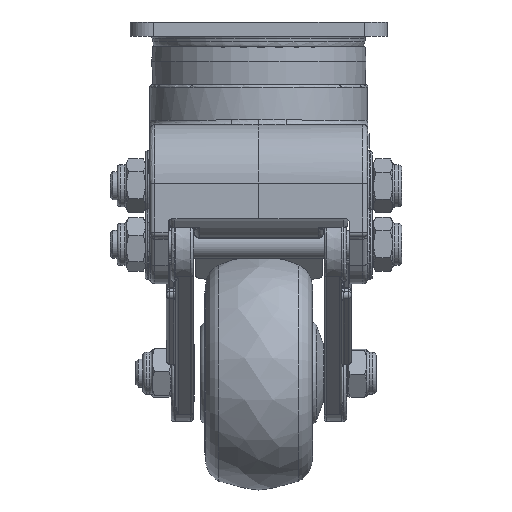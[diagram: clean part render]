
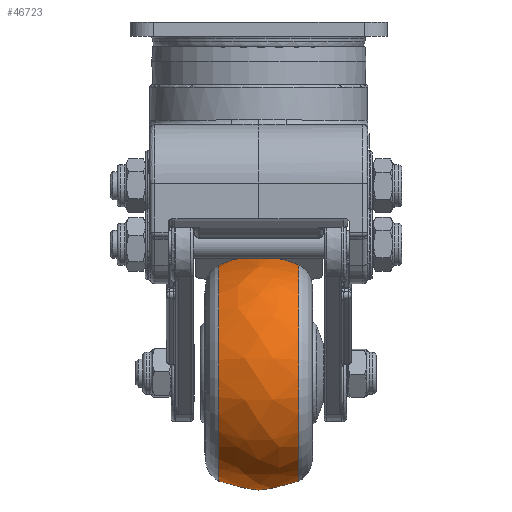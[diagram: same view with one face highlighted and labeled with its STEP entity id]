
A CAD part, left-side view. The second image highlights one B-rep face of the part: STEP entity #46723.
In plain terms, the highlighted free-form (B-spline) face has degree [2, 2] with [3, 9] control points.
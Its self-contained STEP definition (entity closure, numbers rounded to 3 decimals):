
#14=(
BOUNDED_SURFACE()
B_SPLINE_SURFACE(2,2,((#71727,#71728,#71729,#71730,#71731,#71732,#71733,
#71734,#71735),(#71736,#71737,#71738,#71739,#71740,#71741,#71742,#71743,
#71744),(#71745,#71746,#71747,#71748,#71749,#71750,#71751,#71752,#71753)),
 .UNSPECIFIED.,.F.,.T.,.F.)
B_SPLINE_SURFACE_WITH_KNOTS((3,3),(3,2,2,2,3),(-0.44,0.44),
(-3.142,-1.571,0.,1.571,3.142),
 .UNSPECIFIED.)
GEOMETRIC_REPRESENTATION_ITEM()
RATIONAL_B_SPLINE_SURFACE(((1.,0.707,1.,0.707,1.,
0.707,1.,0.707,1.),(0.905,0.64,
0.905,0.64,0.905,0.64,0.905,
0.64,0.905),(1.,0.707,1.,0.707,
1.,0.707,1.,0.707,1.)))
REPRESENTATION_ITEM('')
SURFACE()
);
#4639=CIRCLE('',#50133,23.096);
#4640=CIRCLE('',#50134,23.096);
#4641=CIRCLE('',#50135,20.);
#4642=CIRCLE('',#50136,23.096);
#4643=CIRCLE('',#50137,23.096);
#6249=FACE_OUTER_BOUND('',#8962,.T.);
#8962=EDGE_LOOP('',(#32077,#32078,#32079,#32080,#32081,#32082));
#18666=VERTEX_POINT('',#71754);
#18667=VERTEX_POINT('',#71755);
#18668=VERTEX_POINT('',#71758);
#18669=VERTEX_POINT('',#71760);
#23646=EDGE_CURVE('',#18666,#18667,#4639,.T.);
#23647=EDGE_CURVE('',#18667,#18666,#4640,.T.);
#23648=EDGE_CURVE('',#18667,#18668,#4641,.T.);
#23649=EDGE_CURVE('',#18668,#18669,#4642,.T.);
#23650=EDGE_CURVE('',#18669,#18668,#4643,.T.);
#32077=ORIENTED_EDGE('',*,*,#23646,.F.);
#32078=ORIENTED_EDGE('',*,*,#23647,.F.);
#32079=ORIENTED_EDGE('',*,*,#23648,.T.);
#32080=ORIENTED_EDGE('',*,*,#23649,.T.);
#32081=ORIENTED_EDGE('',*,*,#23650,.T.);
#32082=ORIENTED_EDGE('',*,*,#23648,.F.);
#46723=ADVANCED_FACE('',(#6249),#14,.F.);
#50133=AXIS2_PLACEMENT_3D('',#71756,#56060,#56061);
#50134=AXIS2_PLACEMENT_3D('',#71757,#56062,#56063);
#50135=AXIS2_PLACEMENT_3D('',#71759,#56064,#56065);
#50136=AXIS2_PLACEMENT_3D('',#71761,#56066,#56067);
#50137=AXIS2_PLACEMENT_3D('',#71762,#56068,#56069);
#56060=DIRECTION('center_axis',(0.,-1.,0.));
#56061=DIRECTION('ref_axis',(0.051,0.,-0.999));
#56062=DIRECTION('center_axis',(0.,-1.,0.));
#56063=DIRECTION('ref_axis',(0.051,0.,-0.999));
#56064=DIRECTION('center_axis',(-0.999,0.,
-0.051));
#56065=DIRECTION('ref_axis',(-0.051,0.,
0.999));
#56066=DIRECTION('center_axis',(0.,-1.,0.));
#56067=DIRECTION('ref_axis',(0.051,0.,-0.999));
#56068=DIRECTION('center_axis',(0.,-1.,0.));
#56069=DIRECTION('ref_axis',(0.051,0.,-0.999));
#71727=CARTESIAN_POINT('Ctrl Pts',(-42.811,-25.477,
6.017));
#71728=CARTESIAN_POINT('Ctrl Pts',(-65.877,-25.477,
4.836));
#71729=CARTESIAN_POINT('Ctrl Pts',(-64.696,-25.477,
-18.23));
#71730=CARTESIAN_POINT('Ctrl Pts',(-63.514,-25.477,
-41.296));
#71731=CARTESIAN_POINT('Ctrl Pts',(-40.448,-25.477,
-40.115));
#71732=CARTESIAN_POINT('Ctrl Pts',(-17.382,-25.477,
-38.933));
#71733=CARTESIAN_POINT('Ctrl Pts',(-18.564,-25.477,
-15.867));
#71734=CARTESIAN_POINT('Ctrl Pts',(-19.745,-25.477,
7.199));
#71735=CARTESIAN_POINT('Ctrl Pts',(-42.811,-25.477,
6.017));
#71736=CARTESIAN_POINT('Ctrl Pts',(-43.016,-33.993,
10.02));
#71737=CARTESIAN_POINT('Ctrl Pts',(-70.085,-33.993,
8.633));
#71738=CARTESIAN_POINT('Ctrl Pts',(-68.698,-33.993,
-18.435));
#71739=CARTESIAN_POINT('Ctrl Pts',(-67.312,-33.993,
-45.504));
#71740=CARTESIAN_POINT('Ctrl Pts',(-40.243,-33.993,-44.117));
#71741=CARTESIAN_POINT('Ctrl Pts',(-13.175,-33.993,
-42.731));
#71742=CARTESIAN_POINT('Ctrl Pts',(-14.561,-33.993,
-15.662));
#71743=CARTESIAN_POINT('Ctrl Pts',(-15.948,-33.993,
11.406));
#71744=CARTESIAN_POINT('Ctrl Pts',(-43.016,-33.993,
10.02));
#71745=CARTESIAN_POINT('Ctrl Pts',(-42.811,-42.51,
6.017));
#71746=CARTESIAN_POINT('Ctrl Pts',(-65.877,-42.51,
4.836));
#71747=CARTESIAN_POINT('Ctrl Pts',(-64.696,-42.51,
-18.23));
#71748=CARTESIAN_POINT('Ctrl Pts',(-63.514,-42.51,
-41.296));
#71749=CARTESIAN_POINT('Ctrl Pts',(-40.448,-42.51,
-40.115));
#71750=CARTESIAN_POINT('Ctrl Pts',(-17.382,-42.51,
-38.933));
#71751=CARTESIAN_POINT('Ctrl Pts',(-18.564,-42.51,-15.867));
#71752=CARTESIAN_POINT('Ctrl Pts',(-19.745,-42.51,7.199));
#71753=CARTESIAN_POINT('Ctrl Pts',(-42.811,-42.51,
6.017));
#71754=CARTESIAN_POINT('',(-40.448,-42.51,-40.115));
#71755=CARTESIAN_POINT('',(-42.811,-42.51,6.017));
#71756=CARTESIAN_POINT('Origin',(-41.63,-42.51,-17.049));
#71757=CARTESIAN_POINT('Origin',(-41.63,-42.51,-17.049));
#71758=CARTESIAN_POINT('',(-42.811,-25.477,6.017));
#71759=CARTESIAN_POINT('Origin',(-41.885,-33.993,-12.055));
#71760=CARTESIAN_POINT('',(-40.448,-25.477,-40.115));
#71761=CARTESIAN_POINT('Origin',(-41.63,-25.477,-17.049));
#71762=CARTESIAN_POINT('Origin',(-41.63,-25.477,-17.049));
